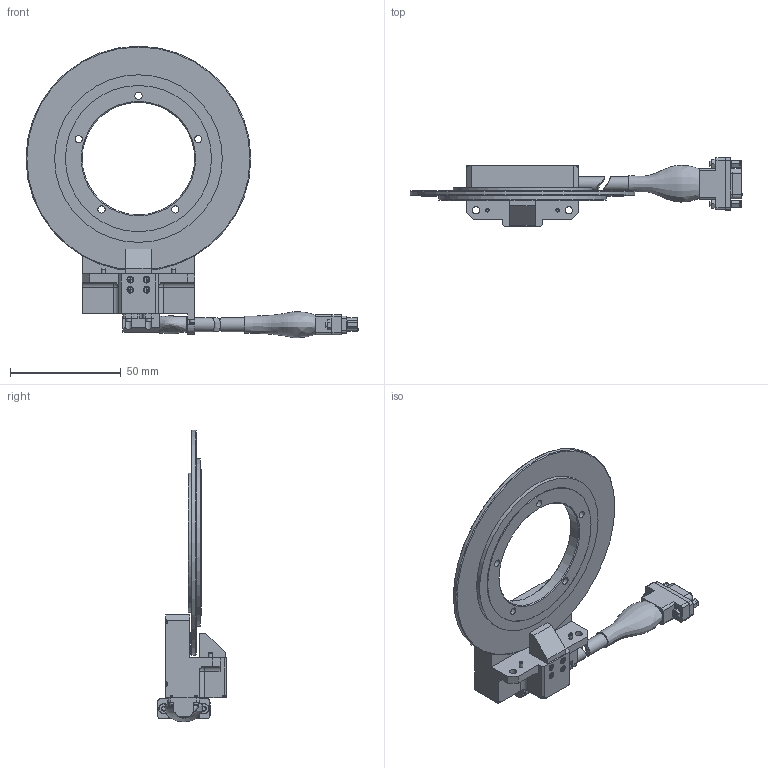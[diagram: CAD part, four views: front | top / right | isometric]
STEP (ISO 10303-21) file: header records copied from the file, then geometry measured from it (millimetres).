
FILE_DESCRIPTION (( 'STEP AP214' ), '1' );
FILE_NAME ('190-0315-02 Encoder Outline, 4 inch.STEP', '2020-07-17T20:31:36', ( '' ), ( '' ), 'SwSTEP 2.0', 'SolidWorks 2019', '' );
FILE_SCHEMA (( 'AUTOMOTIVE_DESIGN' ));
Length unit declared in the file: inch
Products named in the file (3): AIME-II Readhead Assy, Left Exit; Disk Hub Assy, 4 inch; 190-0315-02 Encoder Outline, 4 inch
Assembly tree (2 placements, depth 2):
  190-0315-02 Encoder Outline, 4 inch
    Disk Hub Assy, 4 inch
    AIME-II Readhead Assy, Left Exit
Bounding box: 149.99 x 31.12 x 131.78 mm (x, y, z)
Volume: 58853.3 mm3; surface area: 28454.5 mm2
Topology: 3 solids, 15 shells, 1570 faces, 3924 edges, 2558 vertices
Faces by surface type: plane 1048, cylinder 224, bspline 213, cone 81, sphere 2, torus 2
Full cylindrical faces by diameter (mm): 0.508 x15, 0.635 x15, 1.513 x1, 1.524 x12, 1.575 x2, 1.59 x2, 1.694 x2, 1.778 x12, 2.17 x4, 2.2 x2, 2.311 x2, 2.339 x1, 2.36 x2, 2.4 x2, 2.438 x18, 3.251 x2, 3.264 x5, 6.35 x3, 50.8 x1, 62.738 x1, 64.262 x1, 66.04 x1, 75.743 x1, 101.6 x1
Entity records: 88618 total; most frequent: CARTESIAN_POINT 33048, ORIENTED_EDGE 7242, DIRECTION 6438, EDGE_CURVE 3621, VECTOR 2616, LINE 2616, VERTEX_POINT 2460, EDGE_LOOP 1995
